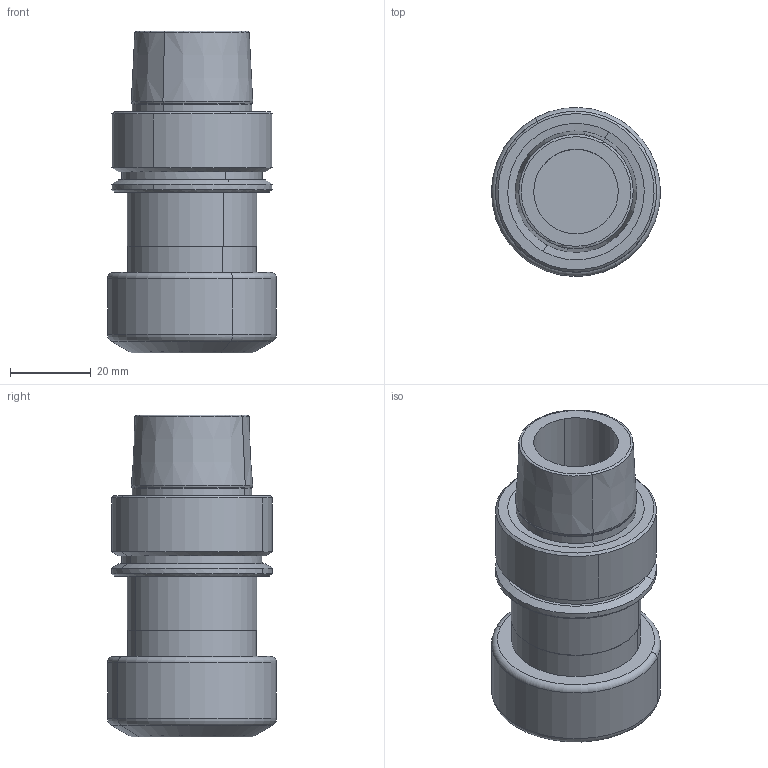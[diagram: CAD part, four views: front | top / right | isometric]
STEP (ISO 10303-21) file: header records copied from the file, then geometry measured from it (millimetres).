
FILE_DESCRIPTION(('CATIA V5 STEP','CAx-IF Rec.Pracs.--- Model Styling and Organization---1.2---2011-12-15'),'2;1');
FILE_NAME('\\nas01\drv1\utils\eitdev\rte\eit\transmagicconvert\db\out\635924310470141138\4505217-L-B.stp','2016-03-01T10:10:58+00:00',('none'),('none'),'CATIA Version 5 Release 21 SP 5 (IN-10)','CATIA V5 STEP AP214','none');
FILE_SCHEMA(('AUTOMOTIVE_DESIGN { 1 0 10303 214 1 1 1 1 }'));
Length unit declared in the file: millimetre
Products named in the file (1): HSK A 40 ER25X 60
Bounding box: 41.99 x 41.99 x 80 mm (x, y, z)
Volume: 54956.5 mm3; surface area: 17117.6 mm2
Topology: 1 solids, 1 shells, 62 faces, 135 edges, 83 vertices
Faces by surface type: cylinder 22, cone 20, torus 10, plane 10
Entity records: 1634 total; most frequent: CARTESIAN_POINT 373, ORIENTED_EDGE 270, DIRECTION 204, EDGE_CURVE 135, AXIS2_PLACEMENT_3D 125, CIRCLE 86, VERTEX_POINT 83, EDGE_LOOP 70
